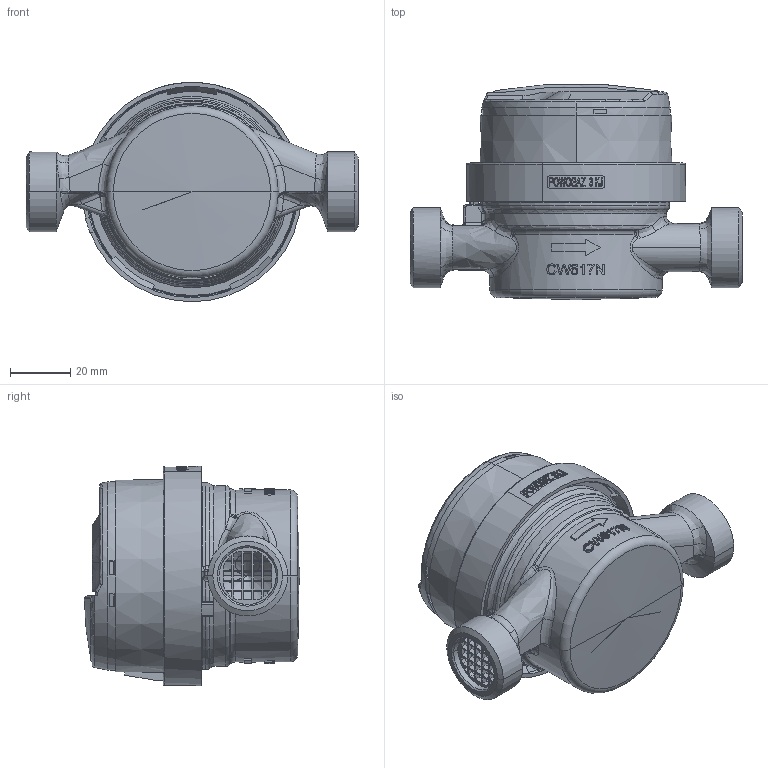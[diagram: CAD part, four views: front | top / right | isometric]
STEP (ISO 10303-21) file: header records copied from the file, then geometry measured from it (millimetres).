
FILE_DESCRIPTION (( 'STEP AP214' ), '1' );
FILE_NAME ('JS-1,6-02.STEP', '2025-05-23T10:18:24', ( '' ), ( '' ), 'SwSTEP 2.0', 'SolidWorks 2019', '' );
FILE_SCHEMA (( 'AUTOMOTIVE_DESIGN' ));
Length unit declared in the file: millimetre
Products named in the file (1): JS-1,6-02
Bounding box: 110 x 71.35 x 72.69 mm (x, y, z)
Volume: 204091.1 mm3; surface area: 56148.8 mm2
Topology: 4 solids, 5 shells, 1044 faces, 2850 edges, 1827 vertices
Faces by surface type: plane 496, bspline 228, cylinder 189, cone 93, torus 28, sphere 10
Entity records: 53753 total; most frequent: CARTESIAN_POINT 17728, ORIENTED_EDGE 5650, DIRECTION 4410, EDGE_CURVE 2825, VERTEX_POINT 1827, AXIS2_PLACEMENT_3D 1539, VECTOR 1332, LINE 1332
